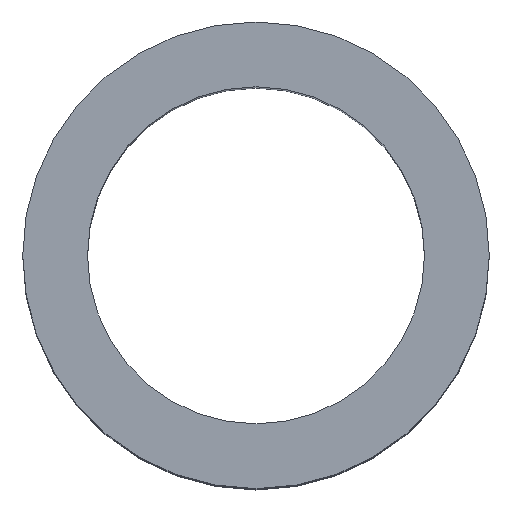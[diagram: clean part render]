
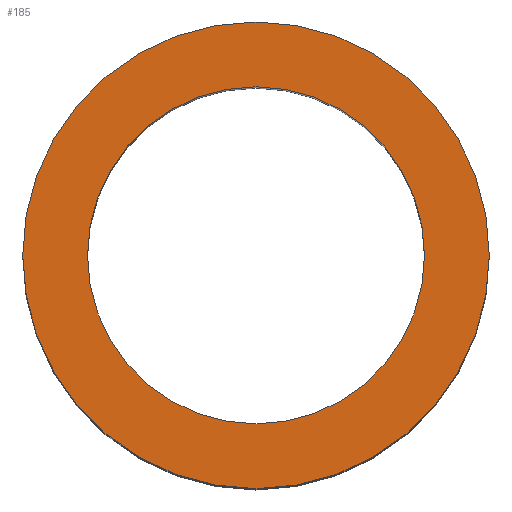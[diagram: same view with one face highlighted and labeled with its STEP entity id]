
A CAD part, top view. The second image highlights one B-rep face of the part: STEP entity #185.
In plain terms, the highlighted planar face has unit normal (0, 0, 1).
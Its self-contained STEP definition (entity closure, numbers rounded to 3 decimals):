
#185=ADVANCED_FACE('',(#211,#212),#209,.T.);
#209=PLANE('',#442);
#211=FACE_BOUND('',#215,.T.);
#212=FACE_BOUND('',#216,.T.);
#215=EDGE_LOOP('',(#241,#242));
#216=EDGE_LOOP('',(#243,#244));
#241=ORIENTED_EDGE('',*,*,#363,.T.);
#242=ORIENTED_EDGE('',*,*,#364,.T.);
#243=ORIENTED_EDGE('',*,*,#365,.F.);
#244=ORIENTED_EDGE('',*,*,#366,.F.);
#337=VERTEX_POINT('',#614);
#338=VERTEX_POINT('',#615);
#339=VERTEX_POINT('',#618);
#340=VERTEX_POINT('',#619);
#363=EDGE_CURVE('',#337,#338,#411,.T.);
#364=EDGE_CURVE('',#338,#337,#412,.T.);
#365=EDGE_CURVE('',#339,#340,#413,.T.);
#366=EDGE_CURVE('',#340,#339,#414,.T.);
#411=CIRCLE('',#438,9.);
#412=CIRCLE('',#439,9.);
#413=CIRCLE('',#440,6.5);
#414=CIRCLE('',#441,6.5);
#438=AXIS2_PLACEMENT_3D('',#613,#490,#491);
#439=AXIS2_PLACEMENT_3D('',#616,#492,#493);
#440=AXIS2_PLACEMENT_3D('',#617,#494,#495);
#441=AXIS2_PLACEMENT_3D('',#620,#496,#497);
#442=AXIS2_PLACEMENT_3D('',#621,#498,#499);
#490=DIRECTION('',(0.,0.,1.));
#491=DIRECTION('',(0.,-1.,0.));
#492=DIRECTION('',(0.,0.,1.));
#493=DIRECTION('',(0.,1.,0.));
#494=DIRECTION('',(0.,0.,1.));
#495=DIRECTION('',(0.,1.,0.));
#496=DIRECTION('',(0.,0.,1.));
#497=DIRECTION('',(0.,-1.,0.));
#498=DIRECTION('',(0.,0.,1.));
#499=DIRECTION('',(0.,-1.,0.));
#613=CARTESIAN_POINT('',(0.,0.,30.));
#614=CARTESIAN_POINT('',(9.,0.,30.));
#615=CARTESIAN_POINT('',(-9.,0.,30.));
#616=CARTESIAN_POINT('',(0.,0.,30.));
#617=CARTESIAN_POINT('',(0.,0.,30.));
#618=CARTESIAN_POINT('',(-6.5,0.,30.));
#619=CARTESIAN_POINT('',(6.5,0.,30.));
#620=CARTESIAN_POINT('',(0.,0.,30.));
#621=CARTESIAN_POINT('',(0.,0.,30.));
